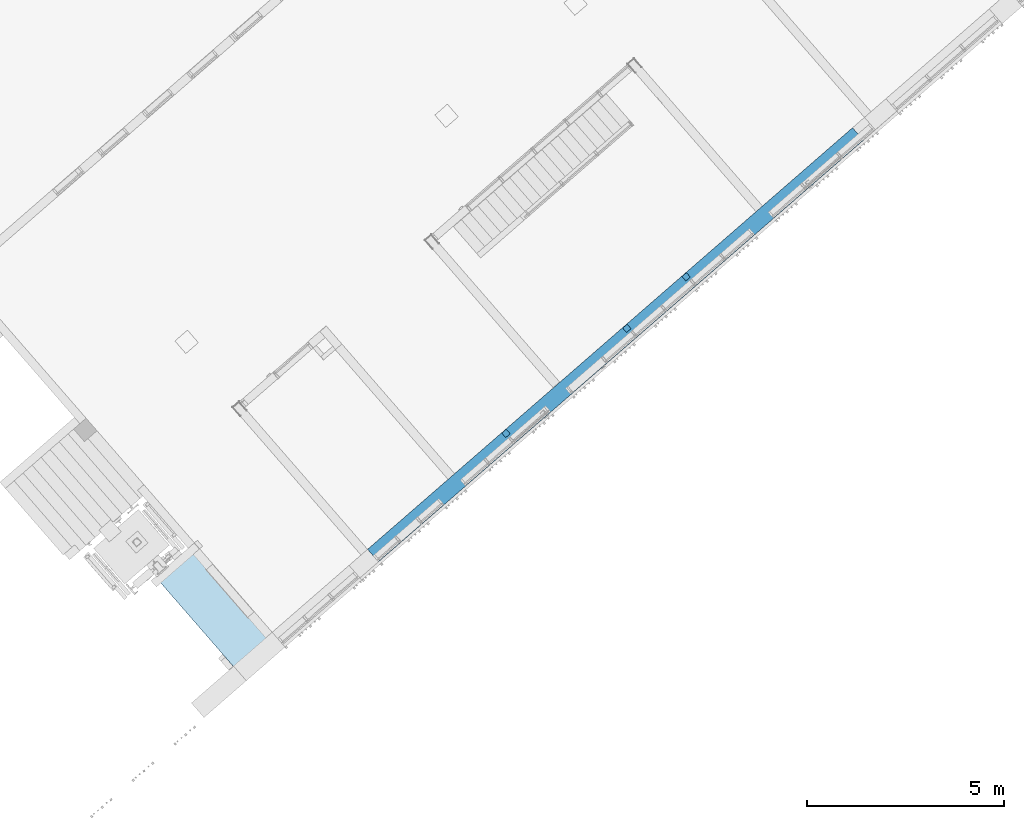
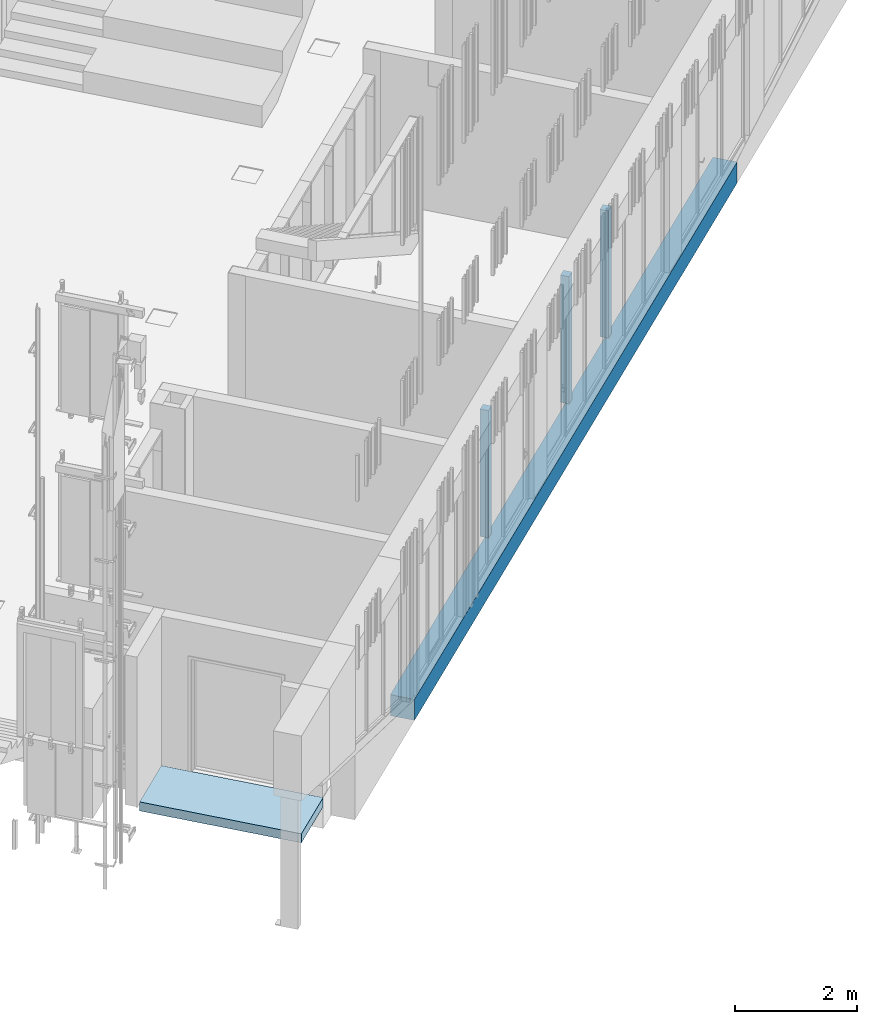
# One storey, part 1 of 124: 3 columns, 1 slab, 1 wall.
"""IFC2X3 building model written with IfcOpenShell, lengths in millimetres."""

from ifc_helpers import new_model, entity, si_unit, converted_unit, derived_unit, money_unit, direction, frame, origin_with_axes, origin_2d_with_axis, place, context, subcontext, project, spatial, polyline, rectangle, outline, extrude, faceted_brep, material, material_list, layer, layer_set, layer_usage, type_object, element, save


model = new_model("IFC2X3")

# Units and contexts
model_context = context("Model", 3, precision=1e-05, world=origin_with_axes(), true_north=direction((0.0, 1.0)))
body_context = subcontext(model_context, "Body", "Model", "MODEL_VIEW")
ifc_project = project(units=[si_unit("LENGTHUNIT", "METRE", prefix="MILLI"), si_unit("AREAUNIT", "SQUARE_METRE"), si_unit("VOLUMEUNIT", "CUBIC_METRE"), converted_unit("PLANEANGLEUNIT", "DEGREE", entity("IfcPlaneAngleMeasure", 0.0174532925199), si_unit("PLANEANGLEUNIT", "RADIAN"), dimensions=[0, 0, 0, 0, 0, 0, 0]), si_unit("SOLIDANGLEUNIT", "STERADIAN"), money_unit("EUR"), converted_unit("TIMEUNIT", "Year", entity("IfcTimeMeasure", 31556926.0), si_unit("TIMEUNIT", "SECOND"), dimensions=[0, 0, 1, 0, 0, 0, 0]), si_unit("MASSUNIT", "GRAM", prefix="KILO"), si_unit("THERMODYNAMICTEMPERATUREUNIT", "DEGREE_CELSIUS"), si_unit("LUMINOUSINTENSITYUNIT", "LUMEN"), si_unit("ENERGYUNIT", "JOULE", prefix="MEGA"), derived_unit("THERMALCONDUCTANCEUNIT", [(si_unit("POWERUNIT", "WATT"), 1), (si_unit("LENGTHUNIT", "METRE"), -1), (si_unit("THERMODYNAMICTEMPERATUREUNIT", "KELVIN"), -1)]), derived_unit("SPECIFICHEATCAPACITYUNIT", [(si_unit("ENERGYUNIT", "JOULE"), 1), (si_unit("MASSUNIT", "GRAM", prefix="KILO"), -1), (si_unit("THERMODYNAMICTEMPERATUREUNIT", "KELVIN"), -1)]), derived_unit("MASSDENSITYUNIT", [(si_unit("MASSUNIT", "GRAM", prefix="KILO"), 1), (si_unit("VOLUMEUNIT", "CUBIC_METRE"), -1)])], contexts=[model_context])

# Site, building, storey
site_placement = place(None, origin_with_axes())
site = spatial("IfcSite", under=ifc_project, at=site_placement, Name="Site", CompositionType="ELEMENT")
building_placement = place(site_placement, origin_with_axes())
building = spatial("IfcBuilding", under=site, at=building_placement, Name="Building", CompositionType="ELEMENT")
storey_placement = place(building_placement, frame((0.0, 0.0, -1615.0), z_axis=(0.0, 0.0, 1.0), x_axis=(1.0, 0.0, 0.0)))
storey = spatial("IfcBuildingStorey", under=building, at=storey_placement, Name="0  korrus", CompositionType="ELEMENT", Elevation=-1615.0)

# Columns
ifc_material_1 = material(Name="Teras (musta värvi)")
column_type = type_object("IfcColumnType", Name="Post", PredefinedType="NOTDEFINED")
for number, where, z_axis, x_axis in (
    (1, (159516.879758, 83875.5613681, 0.0), (0.0, 0.0, 1.0), (0.656058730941, -0.754709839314, 0.0)),
    (2, (156456.534905, 81215.2406624, 0.0), (0.0, 0.0, 1.0), (0.656058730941, -0.754709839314, 0.0)),
    (3, (161018.665196, 85181.0429676, 0.0), (0.0, 0.0, 1.0), (0.656058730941, -0.754709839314, 0.0)),
):
    element("IfcColumn", number, at=place(storey_placement, frame(where, z_axis=z_axis, x_axis=x_axis)), inside=storey, type_object=column_type, material=ifc_material_1, Name="Teras (musta värvi)", ObjectType="Teras (musta värvi) 150 x 150", context=body_context, shape_type="SweptSolid", body=[
        extrude(rectangle(XDim=150.0, YDim=150.0, at=origin_2d_with_axis()), origin_with_axes(), (0.0, 0.0, 1.0), 2550.0),
    ])

# Slab
ifc_material_2 = material(Name="Teras - Roostevaba")
ifc_material_list = material_list([ifc_material_2, ifc_material_1])
slab_type = type_object("IfcSlabType", Name="K-11", PredefinedType="FLOOR")
slab_placement = place(storey_placement, frame((147711.016327, 77435.5364982, 0.0), z_axis=(0.0, 0.0, 1.0), x_axis=(1.0, 0.0, 0.0)))
element("IfcSlab", 4, at=slab_placement, inside=storey, type_object=slab_type, material=ifc_material_list, Name="K-11", PredefinedType="FLOOR", context=body_context, shape_type="Brep", body=[
    faceted_brep([(0.0, 0.0, 0.0), (0.0, 0.0, -30.0), (1843.52544838, -2120.73344725, -30.0), (1843.52544838, -2120.73344725, 0.0), (830.206975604, 721.688753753, 0.0), (830.206975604, 721.688753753, -30.0), (2673.73984454, -1399.03179244, -30.0), (2673.73984454, -1399.03179244, 0.0)], [[[0, 1, 2, 3]], [[4, 5, 1, 0]], [[6, 2, 1, 5]], [[3, 2, 6, 7]], [[7, 4, 0, 3]], [[7, 6, 5, 4]]]),
    faceted_brep([(1843.52544838, -2120.73344725, -30.0), (0.0, 0.0, -30.0), (0.0, 0.0, -180.0), (1843.52544838, -2120.73344725, -180.0), (2673.73984454, -1399.03179244, -30.0), (830.206975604, 721.688753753, -30.0), (830.206975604, 721.688753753, -180.0), (2673.73984454, -1399.03179244, -180.0)], [[[0, 1, 2, 3]], [[4, 5, 1, 0]], [[1, 5, 6, 2]], [[7, 3, 2, 6]], [[4, 0, 3, 7]], [[5, 4, 7, 6]]]),
])

# Wall
ifc_material_3 = material(Name="Krohv - Lubjakivi")
ifc_layer_1 = layer(ifc_material_3, 10.0, ventilated="UNKNOWN")
ifc_material_4 = material(Name="Raudbetoon - Konstruktsioon")
ifc_layer_2 = layer(ifc_material_4, 200.0, ventilated="UNKNOWN")
ifc_material_5 = material(Name="Membraan - Veekindel")
ifc_layer_3 = layer(ifc_material_5, 0.0, ventilated="UNKNOWN")
ifc_material_6 = material(Name="Soojustus - Plastik Kõva")
ifc_layer_4 = layer(ifc_material_6, 150.0, ventilated="UNKNOWN")
ifc_layer_5 = layer(ifc_material_6, 50.0, ventilated="UNKNOWN")
ifc_layer_6 = layer(ifc_material_5, 5.0, ventilated="UNKNOWN")
ifc_layer_7 = layer(ifc_material_5, 5.0, ventilated="UNKNOWN")
ifc_layer_set = layer_set([ifc_layer_1, ifc_layer_2, ifc_layer_3, ifc_layer_4, ifc_layer_5, ifc_layer_6, ifc_layer_7], Name="VS-03")
ifc_layer_usage = layer_usage(ifc_layer_set, "AXIS2", "NEGATIVE", 0.0)
wall_type = type_object("IfcWallType", Name="VS-04", PredefinedType="NOTDEFINED")
wall_placement = place(storey_placement, frame((152951.748256, 78281.199721, -620.0), z_axis=(0.0, 0.0, 1.0), x_axis=(0.754709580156, 0.656059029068, 0.0)))
element("IfcWallStandardCase", 5, at=wall_placement, inside=storey, type_object=wall_type, material=ifc_layer_usage, Name="VS-03", context=body_context, shape_type="SweptSolid", body=[
    extrude(outline(polyline([(0.0, -420.0), (16270.000001, -420.0), (16270.000001, 0.0), (0.0, 0.0), (0.0, -420.0)])), origin_with_axes(), (0.0, 0.0, 1.0), 419.999999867),
])

save(model, "model.ifc")
